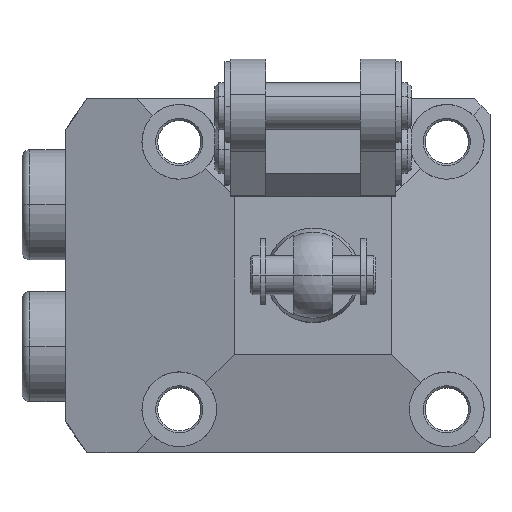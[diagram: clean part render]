
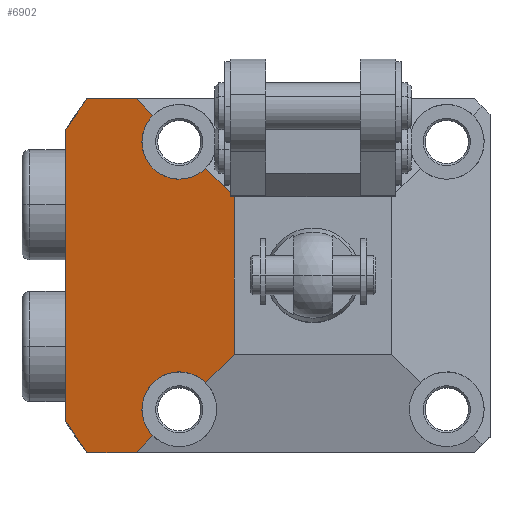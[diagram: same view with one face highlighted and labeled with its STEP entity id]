
A CAD part, top view. The second image highlights one B-rep face of the part: STEP entity #6902.
In plain terms, the highlighted planar face has unit normal (-0.259, 0, 0.966).
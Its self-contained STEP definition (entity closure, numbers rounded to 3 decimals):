
#58 = ORIENTED_EDGE ( 'NONE', *, *, #4631, .T. ) ;
#59 = CARTESIAN_POINT ( 'NONE',  ( 5.687, 5.687, 60.203 ) ) ;
#153 = ORIENTED_EDGE ( 'NONE', *, *, #2778, .T. ) ;
#232 = VERTEX_POINT ( 'NONE', #1503 ) ;
#258 = CARTESIAN_POINT ( 'NONE',  ( -28.74, -22.5, 50.979 ) ) ;
#270 = DIRECTION ( 'NONE',  ( 0., -1., 0. ) ) ;
#296 = CARTESIAN_POINT ( 'NONE',  ( -10., 22.5, 56. ) ) ;
#379 = ORIENTED_EDGE ( 'NONE', *, *, #2124, .F. ) ;
#383 = CARTESIAN_POINT ( 'NONE',  ( -10., 10., 56. ) ) ;
#398 = VERTEX_POINT ( 'NONE', #383 ) ;
#525 = DIRECTION ( 'NONE',  ( 0.966, 0., 0.259 ) ) ;
#589 = CARTESIAN_POINT ( 'NONE',  ( -31.5, -18.439, 50.239 ) ) ;
#605 = VERTEX_POINT ( 'NONE', #589 ) ;
#619 = VERTEX_POINT ( 'NONE', #7073 ) ;
#685 = VERTEX_POINT ( 'NONE', #5880 ) ;
#750 = EDGE_CURVE ( 'NONE', #2202, #8184, #1399, .T. ) ;
#857 = EDGE_CURVE ( 'NONE', #1019, #3409, #4179, .T. ) ;
#876 = LINE ( 'NONE', #1533, #2611 ) ;
#950 = DIRECTION ( 'NONE',  ( -0.966, 0., -0.259 ) ) ;
#1019 = VERTEX_POINT ( 'NONE', #5084 ) ;
#1040 =( BOUNDED_CURVE ( )  B_SPLINE_CURVE ( 3, ( #6162, #2294, #8098, #4254 ),
 .UNSPECIFIED., .F., .T. ) 
 B_SPLINE_CURVE_WITH_KNOTS ( ( 4, 4 ),
 ( 2.477, 2.612 ),
 .UNSPECIFIED. ) 
 CURVE ( )  GEOMETRIC_REPRESENTATION_ITEM ( )  RATIONAL_B_SPLINE_CURVE ( ( 1., 0.998, 0.998, 1. ) ) 
 REPRESENTATION_ITEM ( '' )  );
#1087 = VERTEX_POINT ( 'NONE', #1512 ) ;
#1156 = CARTESIAN_POINT ( 'NONE',  ( -10., -22.5, 56. ) ) ;
#1378 = VECTOR ( 'NONE', #525, 1000. ) ;
#1399 =( BOUNDED_CURVE ( )  B_SPLINE_CURVE ( 3, ( #7900, #5323, #6618, #4055 ),
 .UNSPECIFIED., .F., .F. ) 
 B_SPLINE_CURVE_WITH_KNOTS ( ( 4, 4 ),
 ( 3.142, 5.498 ),
 .UNSPECIFIED. ) 
 CURVE ( )  GEOMETRIC_REPRESENTATION_ITEM ( )  RATIONAL_B_SPLINE_CURVE ( ( 1., 0.588, 0.588, 1. ) ) 
 REPRESENTATION_ITEM ( '' )  );
#1417 = VERTEX_POINT ( 'NONE', #258 ) ;
#1472 = ORIENTED_EDGE ( 'NONE', *, *, #750, .T. ) ;
#1503 = CARTESIAN_POINT ( 'NONE',  ( -28.74, 22.5, 50.979 ) ) ;
#1512 = CARTESIAN_POINT ( 'NONE',  ( -20.359, -20.359, 53.224 ) ) ;
#1533 = CARTESIAN_POINT ( 'NONE',  ( -31.5, 22.501, 50.239 ) ) ;
#1626 = CARTESIAN_POINT ( 'NONE',  ( -16.034, 16.034, 54.383 ) ) ;
#1738 = CARTESIAN_POINT ( 'NONE',  ( -21.75, 17., 52.852 ) ) ;
#1747 = CARTESIAN_POINT ( 'NONE',  ( -30.672, 19.854, 50.461 ) ) ;
#1786 = EDGE_LOOP ( 'NONE', ( #4215, #153, #6931, #1472, #2404, #3622, #7992, #2378, #7753, #7602, #58, #379, #3875, #5519 ) ) ;
#1792 = CARTESIAN_POINT ( 'NONE',  ( -13.641, 13.641, 55.024 ) ) ;
#1992 = LINE ( 'NONE', #296, #5227 ) ;
#2124 = EDGE_CURVE ( 'NONE', #619, #232, #7817, .T. ) ;
#2202 = VERTEX_POINT ( 'NONE', #5734 ) ;
#2294 = CARTESIAN_POINT ( 'NONE',  ( -29.751, -21.209, 50.708 ) ) ;
#2324 = PLANE ( 'NONE',  #2710 ) ;
#2378 = ORIENTED_EDGE ( 'NONE', *, *, #4837, .T. ) ;
#2404 = ORIENTED_EDGE ( 'NONE', *, *, #5263, .T. ) ;
#2421 = CARTESIAN_POINT ( 'NONE',  ( -31.5, 18.439, 50.239 ) ) ;
#2434 = CARTESIAN_POINT ( 'NONE',  ( -20.359, 20.359, 53.224 ) ) ;
#2611 = VECTOR ( 'NONE', #270, 1000. ) ;
#2614 = CARTESIAN_POINT ( 'NONE',  ( -21.75, -17., 52.852 ) ) ;
#2710 = AXIS2_PLACEMENT_3D ( 'NONE', #3595, #6846, #2963 ) ;
#2778 = EDGE_CURVE ( 'NONE', #4369, #1087, #8274, .T. ) ;
#2799 = LINE ( 'NONE', #4960, #6413 ) ;
#2963 = DIRECTION ( 'NONE',  ( -0.966, 0., -0.259 ) ) ;
#3106 = CARTESIAN_POINT ( 'NONE',  ( -21.75, 12.028, 52.852 ) ) ;
#3119 = LINE ( 'NONE', #1156, #1378 ) ;
#3409 = VERTEX_POINT ( 'NONE', #7849 ) ;
#3595 = CARTESIAN_POINT ( 'NONE',  ( -10., 22.501, 56. ) ) ;
#3622 = ORIENTED_EDGE ( 'NONE', *, *, #6178, .F. ) ;
#3696 =( BOUNDED_CURVE ( )  B_SPLINE_CURVE ( 3, ( #1738, #4358, #6280, #2434 ),
 .UNSPECIFIED., .F., .F. ) 
 B_SPLINE_CURVE_WITH_KNOTS ( ( 4, 4 ),
 ( 3.142, 3.927 ),
 .UNSPECIFIED. ) 
 CURVE ( )  GEOMETRIC_REPRESENTATION_ITEM ( )  RATIONAL_B_SPLINE_CURVE ( ( 1., 0.949, 0.949, 1. ) ) 
 REPRESENTATION_ITEM ( '' )  );
#3812 = EDGE_CURVE ( 'NONE', #1087, #2202, #6963, .T. ) ;
#3875 = ORIENTED_EDGE ( 'NONE', *, *, #4568, .T. ) ;
#3940 = DIRECTION ( 'NONE',  ( 0.695, 0.695, 0.186 ) ) ;
#3962 = VECTOR ( 'NONE', #4818, 1000. ) ;
#4055 = CARTESIAN_POINT ( 'NONE',  ( -13.641, -13.641, 55.024 ) ) ;
#4179 = LINE ( 'NONE', #7382, #3962 ) ;
#4215 = ORIENTED_EDGE ( 'NONE', *, *, #7674, .T. ) ;
#4240 = DIRECTION ( 'NONE',  ( 0.695, 0.695, 0.186 ) ) ;
#4254 = CARTESIAN_POINT ( 'NONE',  ( -31.5, -18.439, 50.239 ) ) ;
#4358 = CARTESIAN_POINT ( 'NONE',  ( -21.75, 18.277, 52.852 ) ) ;
#4367 = CARTESIAN_POINT ( 'NONE',  ( -28.74, 22.5, 50.979 ) ) ;
#4369 = VERTEX_POINT ( 'NONE', #4549 ) ;
#4549 = CARTESIAN_POINT ( 'NONE',  ( -22.5, -22.5, 52.651 ) ) ;
#4568 = EDGE_CURVE ( 'NONE', #619, #605, #876, .T. ) ;
#4631 = EDGE_CURVE ( 'NONE', #3409, #232, #1992, .T. ) ;
#4818 = DIRECTION ( 'NONE',  ( -0.695, 0.695, -0.186 ) ) ;
#4821 = EDGE_CURVE ( 'NONE', #7836, #1019, #3696, .T. ) ;
#4837 = EDGE_CURVE ( 'NONE', #685, #7836, #5188, .T. ) ;
#4857 = VECTOR ( 'NONE', #3940, 1000. ) ;
#4960 = CARTESIAN_POINT ( 'NONE',  ( -10., 22.501, 56. ) ) ;
#4998 = LINE ( 'NONE', #1626, #6302 ) ;
#5051 = CARTESIAN_POINT ( 'NONE',  ( -13.641, -13.641, 55.024 ) ) ;
#5084 = CARTESIAN_POINT ( 'NONE',  ( -20.359, 20.359, 53.224 ) ) ;
#5188 =( BOUNDED_CURVE ( )  B_SPLINE_CURVE ( 3, ( #1792, #5646, #3106, #7604 ),
 .UNSPECIFIED., .F., .F. ) 
 B_SPLINE_CURVE_WITH_KNOTS ( ( 4, 4 ),
 ( 0.785, 3.142 ),
 .UNSPECIFIED. ) 
 CURVE ( )  GEOMETRIC_REPRESENTATION_ITEM ( )  RATIONAL_B_SPLINE_CURVE ( ( 1., 0.588, 0.588, 1. ) ) 
 REPRESENTATION_ITEM ( '' )  );
#5227 = VECTOR ( 'NONE', #950, 1000. ) ;
#5263 = EDGE_CURVE ( 'NONE', #8184, #5714, #7830, .T. ) ;
#5323 = CARTESIAN_POINT ( 'NONE',  ( -21.75, -12.028, 52.852 ) ) ;
#5519 = ORIENTED_EDGE ( 'NONE', *, *, #8003, .F. ) ;
#5646 = CARTESIAN_POINT ( 'NONE',  ( -17.157, 10.126, 54.082 ) ) ;
#5714 = VERTEX_POINT ( 'NONE', #5721 ) ;
#5721 = CARTESIAN_POINT ( 'NONE',  ( -10., -10., 56. ) ) ;
#5734 = CARTESIAN_POINT ( 'NONE',  ( -21.75, -17., 52.852 ) ) ;
#5813 = CARTESIAN_POINT ( 'NONE',  ( -21.261, -19.456, 52.983 ) ) ;
#5880 = CARTESIAN_POINT ( 'NONE',  ( -13.641, 13.641, 55.024 ) ) ;
#6128 = VECTOR ( 'NONE', #4240, 1000. ) ;
#6162 = CARTESIAN_POINT ( 'NONE',  ( -28.74, -22.5, 50.979 ) ) ;
#6178 = EDGE_CURVE ( 'NONE', #398, #5714, #2799, .T. ) ;
#6280 = CARTESIAN_POINT ( 'NONE',  ( -21.261, 19.456, 52.983 ) ) ;
#6302 = VECTOR ( 'NONE', #8072, 1000. ) ;
#6413 = VECTOR ( 'NONE', #7557, 1000. ) ;
#6459 = CARTESIAN_POINT ( 'NONE',  ( -21.75, -18.277, 52.852 ) ) ;
#6499 = FACE_OUTER_BOUND ( 'NONE', #1786, .T. ) ;
#6618 = CARTESIAN_POINT ( 'NONE',  ( -17.157, -10.126, 54.082 ) ) ;
#6846 = DIRECTION ( 'NONE',  ( 0.259, 0., -0.966 ) ) ;
#6892 = EDGE_CURVE ( 'NONE', #398, #685, #4998, .T. ) ;
#6902 = ADVANCED_FACE ( 'NONE', ( #6499 ), #2324, .F. ) ;
#6931 = ORIENTED_EDGE ( 'NONE', *, *, #3812, .T. ) ;
#6963 =( BOUNDED_CURVE ( )  B_SPLINE_CURVE ( 3, ( #7087, #5813, #6459, #2614 ),
 .UNSPECIFIED., .F., .F. ) 
 B_SPLINE_CURVE_WITH_KNOTS ( ( 4, 4 ),
 ( 2.356, 3.142 ),
 .UNSPECIFIED. ) 
 CURVE ( )  GEOMETRIC_REPRESENTATION_ITEM ( )  RATIONAL_B_SPLINE_CURVE ( ( 1., 0.949, 0.949, 1. ) ) 
 REPRESENTATION_ITEM ( '' )  );
#7073 = CARTESIAN_POINT ( 'NONE',  ( -31.5, 18.439, 50.239 ) ) ;
#7087 = CARTESIAN_POINT ( 'NONE',  ( -20.359, -20.359, 53.224 ) ) ;
#7193 = CARTESIAN_POINT ( 'NONE',  ( -21.75, 17., 52.852 ) ) ;
#7382 = CARTESIAN_POINT ( 'NONE',  ( -16.034, 16.034, 54.383 ) ) ;
#7411 = CARTESIAN_POINT ( 'NONE',  ( 5.687, 5.687, 60.203 ) ) ;
#7557 = DIRECTION ( 'NONE',  ( 0., -1., 0. ) ) ;
#7602 = ORIENTED_EDGE ( 'NONE', *, *, #857, .T. ) ;
#7604 = CARTESIAN_POINT ( 'NONE',  ( -21.75, 17., 52.852 ) ) ;
#7674 = EDGE_CURVE ( 'NONE', #1417, #4369, #3119, .T. ) ;
#7753 = ORIENTED_EDGE ( 'NONE', *, *, #4821, .T. ) ;
#7817 =( BOUNDED_CURVE ( )  B_SPLINE_CURVE ( 3, ( #2421, #1747, #8218, #4367 ),
 .UNSPECIFIED., .F., .F. ) 
 B_SPLINE_CURVE_WITH_KNOTS ( ( 4, 4 ),
 ( 3.671, 3.806 ),
 .UNSPECIFIED. ) 
 CURVE ( )  GEOMETRIC_REPRESENTATION_ITEM ( )  RATIONAL_B_SPLINE_CURVE ( ( 1., 0.998, 0.998, 1. ) ) 
 REPRESENTATION_ITEM ( '' )  );
#7830 = LINE ( 'NONE', #7411, #6128 ) ;
#7836 = VERTEX_POINT ( 'NONE', #7193 ) ;
#7849 = CARTESIAN_POINT ( 'NONE',  ( -22.5, 22.5, 52.651 ) ) ;
#7900 = CARTESIAN_POINT ( 'NONE',  ( -21.75, -17., 52.852 ) ) ;
#7992 = ORIENTED_EDGE ( 'NONE', *, *, #6892, .T. ) ;
#8003 = EDGE_CURVE ( 'NONE', #1417, #605, #1040, .T. ) ;
#8072 = DIRECTION ( 'NONE',  ( -0.695, 0.695, -0.186 ) ) ;
#8098 = CARTESIAN_POINT ( 'NONE',  ( -30.672, -19.854, 50.461 ) ) ;
#8184 = VERTEX_POINT ( 'NONE', #5051 ) ;
#8218 = CARTESIAN_POINT ( 'NONE',  ( -29.751, 21.209, 50.708 ) ) ;
#8274 = LINE ( 'NONE', #59, #4857 ) ;
